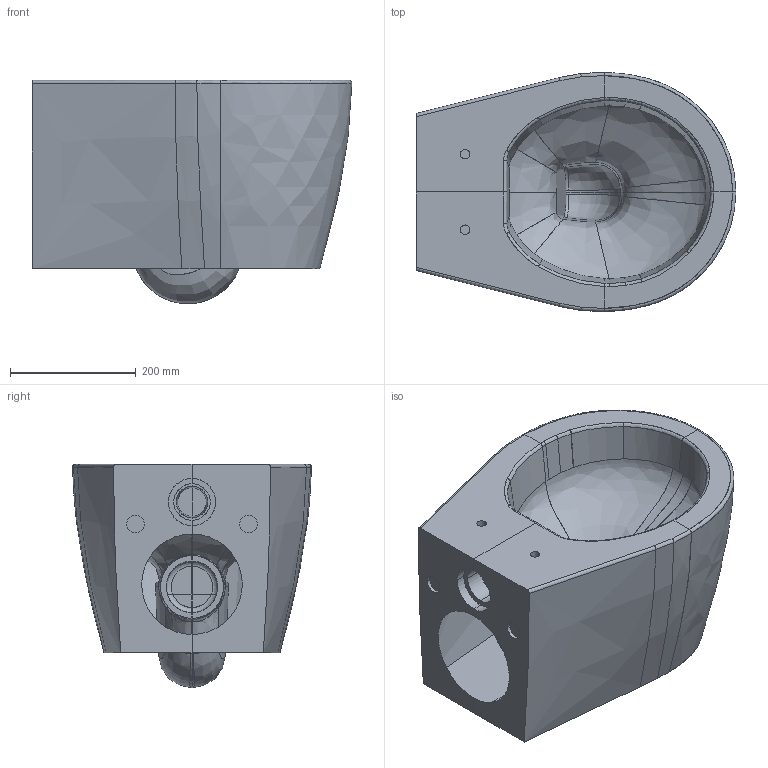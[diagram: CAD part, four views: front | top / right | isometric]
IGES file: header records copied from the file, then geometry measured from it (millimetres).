
Start section: START RECORD GO HERE.
Global section: file name: 9907_Vaso sosp XES.igs; native system: DASSAULT SYSTEMES CATIA V5 R19 - www.3ds.com; preprocessor: CATIA Version 5 Release 19 SP 5 ; author: gioge; organization: LAPTOP-G94B6G74; date: 20200630.152240; units: millimetre
Bounding box: 508.52 x 380.13 x 355.4 mm (x, y, z)
Surface area: 951852.6 mm2 (no closed solid volume)
Topology: 0 solids, 0 shells, 180 faces, 956 edges, 952 vertices
Faces by surface type: bspline 130, plane 28, revolution 22
